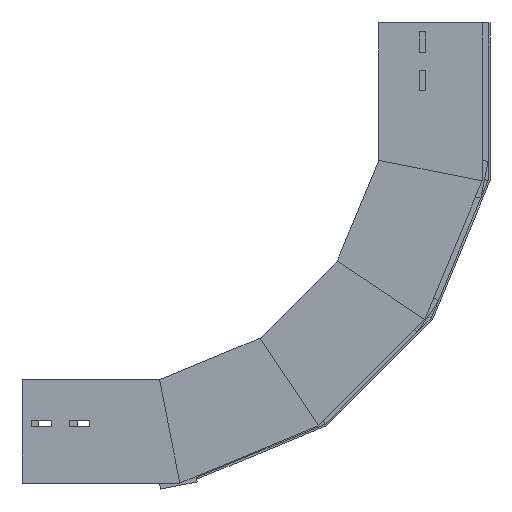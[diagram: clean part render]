
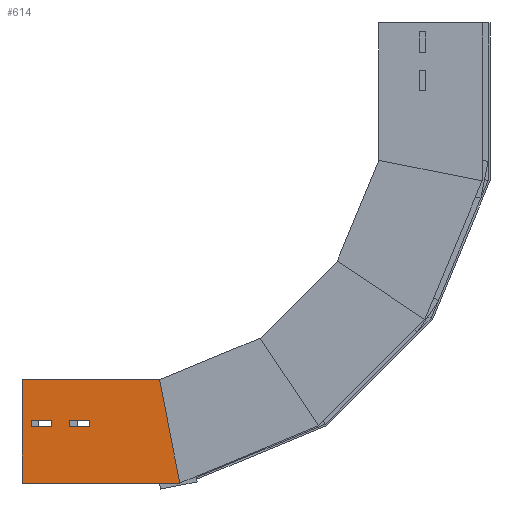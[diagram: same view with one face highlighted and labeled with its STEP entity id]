
A CAD part, left-side view. The second image highlights one B-rep face of the part: STEP entity #614.
In plain terms, the highlighted planar face has unit normal (-1, 0, 0) as drawn and (1, 0, 0) by its records, which use the part's own axes.
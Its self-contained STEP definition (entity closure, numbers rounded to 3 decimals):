
#14 = CARTESIAN_POINT ( 'NONE',  ( 0., 68.5, -73.505 ) ) ;
#23 = CARTESIAN_POINT ( 'NONE',  ( 0., 0., 0. ) ) ;
#58 = VERTEX_POINT ( 'NONE', #273 ) ;
#60 = CARTESIAN_POINT ( 'NONE',  ( 0., 68.5, -51.505 ) ) ;
#75 = LINE ( 'NONE', #1811, #1446 ) ;
#158 = DIRECTION ( 'NONE',  ( 0., -0.981, -0.195 ) ) ;
#160 = ORIENTED_EDGE ( 'NONE', *, *, #1131, .T. ) ;
#168 = LINE ( 'NONE', #1608, #964 ) ;
#176 = LINE ( 'NONE', #912, #1172 ) ;
#211 = LINE ( 'NONE', #1087, #1437 ) ;
#240 = EDGE_CURVE ( 'NONE', #1411, #1822, #797, .T. ) ;
#251 = LINE ( 'NONE', #849, #1022 ) ;
#273 = CARTESIAN_POINT ( 'NONE',  ( 0., 61.5, -31.835 ) ) ;
#278 = EDGE_CURVE ( 'NONE', #1190, #1826, #75, .T. ) ;
#285 = CARTESIAN_POINT ( 'NONE',  ( 0., 68.5, -73.505 ) ) ;
#292 = EDGE_CURVE ( 'NONE', #803, #981, #634, .T. ) ;
#297 = CARTESIAN_POINT ( 'NONE',  ( 0., 61.5, -73.505 ) ) ;
#309 = VERTEX_POINT ( 'NONE', #1378 ) ;
#321 = DIRECTION ( 'NONE',  ( 0., -1., 0. ) ) ;
#376 = EDGE_CURVE ( 'NONE', #803, #697, #251, .T. ) ;
#379 = ORIENTED_EDGE ( 'NONE', *, *, #681, .F. ) ;
#383 = LINE ( 'NONE', #1246, #977 ) ;
#478 = LINE ( 'NONE', #1044, #934 ) ;
#489 = ORIENTED_EDGE ( 'NONE', *, *, #1315, .F. ) ;
#497 = DIRECTION ( 'NONE',  ( 0., 1., 0. ) ) ;
#510 = ORIENTED_EDGE ( 'NONE', *, *, #376, .T. ) ;
#554 = LINE ( 'NONE', #285, #1125 ) ;
#580 = FACE_BOUND ( 'NONE', #1718, .T. ) ;
#600 = DIRECTION ( 'NONE',  ( 0., 0., 1. ) ) ;
#601 = DIRECTION ( 'NONE',  ( 0., 1., 0. ) ) ;
#614 = ADVANCED_FACE ( 'NONE', ( #1309, #890, #580 ), #1470, .F. ) ;
#617 = LINE ( 'NONE', #60, #716 ) ;
#634 = LINE ( 'NONE', #1637, #902 ) ;
#658 = EDGE_CURVE ( 'NONE', #1489, #1138, #617, .T. ) ;
#663 = DIRECTION ( 'NONE',  ( 0., 1., 0. ) ) ;
#681 = EDGE_CURVE ( 'NONE', #1852, #697, #168, .T. ) ;
#697 = VERTEX_POINT ( 'NONE', #750 ) ;
#716 = VECTOR ( 'NONE', #1796, 1000. ) ;
#737 = LINE ( 'NONE', #1793, #1141 ) ;
#750 = CARTESIAN_POINT ( 'NONE',  ( 0., 0., -172.1 ) ) ;
#771 = ORIENTED_EDGE ( 'NONE', *, *, #292, .F. ) ;
#797 = LINE ( 'NONE', #1362, #960 ) ;
#803 = VERTEX_POINT ( 'NONE', #1646 ) ;
#818 = ORIENTED_EDGE ( 'NONE', *, *, #1688, .T. ) ;
#842 = CARTESIAN_POINT ( 'NONE',  ( 0., 112.5, 0. ) ) ;
#849 = CARTESIAN_POINT ( 'NONE',  ( 0., 0., 0. ) ) ;
#853 = CARTESIAN_POINT ( 'NONE',  ( 0., 68.5, -9.835 ) ) ;
#890 = FACE_OUTER_BOUND ( 'NONE', #990, .T. ) ;
#902 = VECTOR ( 'NONE', #497, 1000. ) ;
#912 = CARTESIAN_POINT ( 'NONE',  ( 0., 61.5, -9.835 ) ) ;
#934 = VECTOR ( 'NONE', #321, 1000. ) ;
#960 = VECTOR ( 'NONE', #1370, 1000. ) ;
#964 = VECTOR ( 'NONE', #158, 1000. ) ;
#977 = VECTOR ( 'NONE', #1831, 1000. ) ;
#981 = VERTEX_POINT ( 'NONE', #842 ) ;
#990 = EDGE_LOOP ( 'NONE', ( #489, #771, #510, #379 ) ) ;
#1014 = ORIENTED_EDGE ( 'NONE', *, *, #240, .T. ) ;
#1022 = VECTOR ( 'NONE', #1107, 1000. ) ;
#1044 = CARTESIAN_POINT ( 'NONE',  ( 0., 68.5, -31.835 ) ) ;
#1048 = CARTESIAN_POINT ( 'NONE',  ( 0., 68.5, -51.505 ) ) ;
#1054 = CARTESIAN_POINT ( 'NONE',  ( 0., 61.5, -9.835 ) ) ;
#1087 = CARTESIAN_POINT ( 'NONE',  ( 0., 112.5, 0. ) ) ;
#1107 = DIRECTION ( 'NONE',  ( 0., 0., -1. ) ) ;
#1114 = EDGE_CURVE ( 'NONE', #1822, #1489, #737, .T. ) ;
#1125 = VECTOR ( 'NONE', #1276, 1000. ) ;
#1127 = EDGE_CURVE ( 'NONE', #309, #58, #478, .T. ) ;
#1131 = EDGE_CURVE ( 'NONE', #58, #1190, #176, .T. ) ;
#1138 = VERTEX_POINT ( 'NONE', #14 ) ;
#1141 = VECTOR ( 'NONE', #601, 1000. ) ;
#1167 = CARTESIAN_POINT ( 'NONE',  ( 0., 112.5, -149.722 ) ) ;
#1172 = VECTOR ( 'NONE', #1320, 1000. ) ;
#1190 = VERTEX_POINT ( 'NONE', #1054 ) ;
#1246 = CARTESIAN_POINT ( 'NONE',  ( 0., 68.5, -9.835 ) ) ;
#1276 = DIRECTION ( 'NONE',  ( 0., -1., 0. ) ) ;
#1277 = ORIENTED_EDGE ( 'NONE', *, *, #1127, .T. ) ;
#1293 = CARTESIAN_POINT ( 'NONE',  ( 0., 61.5, -51.505 ) ) ;
#1299 = EDGE_LOOP ( 'NONE', ( #1854, #1677, #1730, #1014 ) ) ;
#1309 = FACE_BOUND ( 'NONE', #1299, .T. ) ;
#1315 = EDGE_CURVE ( 'NONE', #981, #1852, #211, .T. ) ;
#1320 = DIRECTION ( 'NONE',  ( 0., 0., 1. ) ) ;
#1330 = DIRECTION ( 'NONE',  ( -1., 0., 0. ) ) ;
#1360 = AXIS2_PLACEMENT_3D ( 'NONE', #23, #1330, #600 ) ;
#1362 = CARTESIAN_POINT ( 'NONE',  ( 0., 61.5, -51.505 ) ) ;
#1370 = DIRECTION ( 'NONE',  ( 0., 0., 1. ) ) ;
#1378 = CARTESIAN_POINT ( 'NONE',  ( 0., 68.5, -31.835 ) ) ;
#1411 = VERTEX_POINT ( 'NONE', #297 ) ;
#1437 = VECTOR ( 'NONE', #1673, 1000. ) ;
#1446 = VECTOR ( 'NONE', #663, 1000. ) ;
#1470 = PLANE ( 'NONE',  #1360 ) ;
#1489 = VERTEX_POINT ( 'NONE', #1048 ) ;
#1608 = CARTESIAN_POINT ( 'NONE',  ( 0., 32.93, -165.55 ) ) ;
#1636 = ORIENTED_EDGE ( 'NONE', *, *, #278, .T. ) ;
#1637 = CARTESIAN_POINT ( 'NONE',  ( 0., 0., 0. ) ) ;
#1646 = CARTESIAN_POINT ( 'NONE',  ( 0., 0., 0. ) ) ;
#1673 = DIRECTION ( 'NONE',  ( 0., 0., -1. ) ) ;
#1677 = ORIENTED_EDGE ( 'NONE', *, *, #658, .T. ) ;
#1688 = EDGE_CURVE ( 'NONE', #1826, #309, #383, .T. ) ;
#1718 = EDGE_LOOP ( 'NONE', ( #1636, #818, #1277, #160 ) ) ;
#1730 = ORIENTED_EDGE ( 'NONE', *, *, #1783, .T. ) ;
#1783 = EDGE_CURVE ( 'NONE', #1138, #1411, #554, .T. ) ;
#1793 = CARTESIAN_POINT ( 'NONE',  ( 0., 68.5, -51.505 ) ) ;
#1796 = DIRECTION ( 'NONE',  ( 0., 0., -1. ) ) ;
#1811 = CARTESIAN_POINT ( 'NONE',  ( 0., 68.5, -9.835 ) ) ;
#1822 = VERTEX_POINT ( 'NONE', #1293 ) ;
#1826 = VERTEX_POINT ( 'NONE', #853 ) ;
#1831 = DIRECTION ( 'NONE',  ( 0., 0., -1. ) ) ;
#1852 = VERTEX_POINT ( 'NONE', #1167 ) ;
#1854 = ORIENTED_EDGE ( 'NONE', *, *, #1114, .T. ) ;
